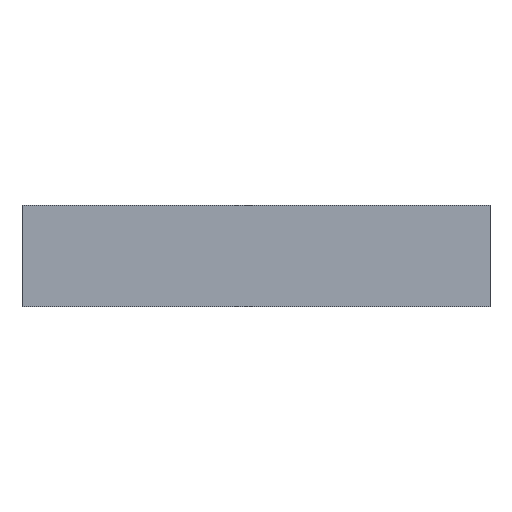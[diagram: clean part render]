
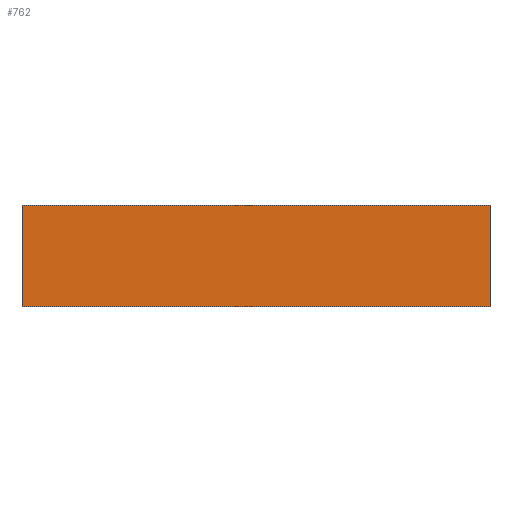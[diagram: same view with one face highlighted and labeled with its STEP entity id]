
A CAD part, front view. The second image highlights one B-rep face of the part: STEP entity #762.
In plain terms, the highlighted planar face has unit normal (0, -1, 0).
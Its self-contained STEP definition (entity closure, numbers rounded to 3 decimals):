
#32 = VECTOR ( 'NONE', #581, 1000. ) ;
#33 = LINE ( 'NONE', #582, #32 ) ;
#72 = ORIENTED_EDGE ( 'NONE', *, *, #374, .T. ) ;
#73 = ORIENTED_EDGE ( 'NONE', *, *, #349, .F. ) ;
#74 = ORIENTED_EDGE ( 'NONE', *, *, #381, .F. ) ;
#75 = ORIENTED_EDGE ( 'NONE', *, *, #375, .T. ) ;
#220 = CARTESIAN_POINT ( 'NONE',  ( -150., 0., 65. ) ) ;
#244 = DIRECTION ( 'NONE',  ( -1., 0., 0. ) ) ;
#250 = DIRECTION ( 'NONE',  ( 0., 1., 0. ) ) ;
#269 = PLANE ( 'NONE',  #902 ) ;
#290 = VERTEX_POINT ( 'NONE', #514 ) ;
#311 = VERTEX_POINT ( 'NONE', #486 ) ;
#312 = VERTEX_POINT ( 'NONE', #483 ) ;
#349 = EDGE_CURVE ( 'NONE', #290, #312, #33, .T. ) ;
#374 = EDGE_CURVE ( 'NONE', #290, #585, #740, .T. ) ;
#375 = EDGE_CURVE ( 'NONE', #585, #311, #624, .T. ) ;
#381 = EDGE_CURVE ( 'NONE', #312, #311, #725, .T. ) ;
#422 = CARTESIAN_POINT ( 'NONE',  ( -150., 0., 0. ) ) ;
#483 = CARTESIAN_POINT ( 'NONE',  ( 150., 0., 65. ) ) ;
#486 = CARTESIAN_POINT ( 'NONE',  ( 150., 0., 0. ) ) ;
#495 = DIRECTION ( 'NONE',  ( 0., 0., -1. ) ) ;
#514 = CARTESIAN_POINT ( 'NONE',  ( -150., 0., 65. ) ) ;
#515 = DIRECTION ( 'NONE',  ( 1., 0., 0. ) ) ;
#516 = CARTESIAN_POINT ( 'NONE',  ( 150., 0., 65. ) ) ;
#517 = DIRECTION ( 'NONE',  ( 0., 0., -1. ) ) ;
#518 = CARTESIAN_POINT ( 'NONE',  ( -150., 0., 65. ) ) ;
#528 = CARTESIAN_POINT ( 'NONE',  ( -150., 0., 0. ) ) ;
#581 = DIRECTION ( 'NONE',  ( 1., 0., 0. ) ) ;
#582 = CARTESIAN_POINT ( 'NONE',  ( -150., 0., 65. ) ) ;
#585 = VERTEX_POINT ( 'NONE', #422 ) ;
#624 = LINE ( 'NONE', #528, #738 ) ;
#679 = FACE_OUTER_BOUND ( 'NONE', #861, .T. ) ;
#725 = LINE ( 'NONE', #516, #732 ) ;
#732 = VECTOR ( 'NONE', #495, 1000. ) ;
#738 = VECTOR ( 'NONE', #515, 1000. ) ;
#739 = VECTOR ( 'NONE', #517, 1000. ) ;
#740 = LINE ( 'NONE', #518, #739 ) ;
#762 = ADVANCED_FACE ( 'NONE', ( #679 ), #269, .F. ) ;
#861 = EDGE_LOOP ( 'NONE', ( #75, #74, #73, #72 ) ) ;
#902 = AXIS2_PLACEMENT_3D ( 'NONE', #220, #250, #244 ) ;
